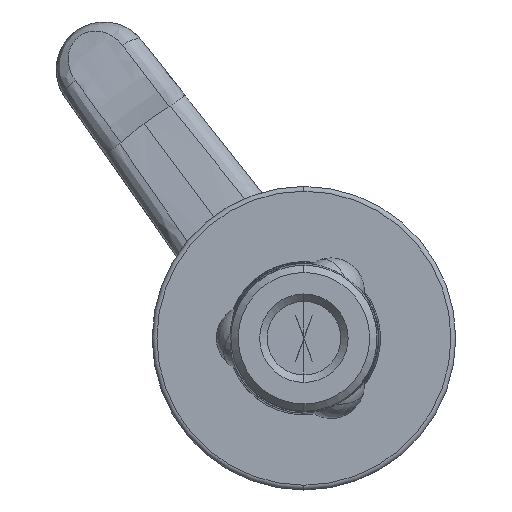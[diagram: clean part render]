
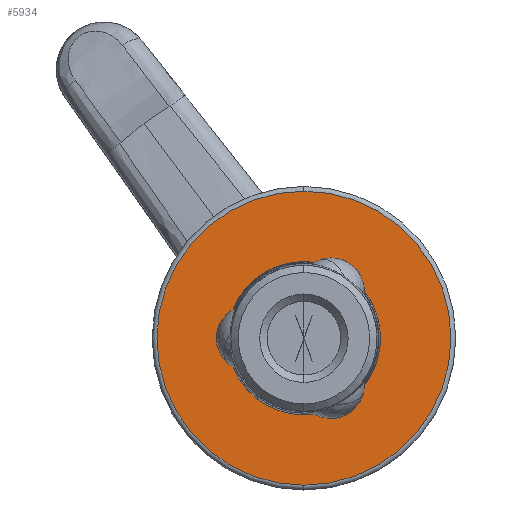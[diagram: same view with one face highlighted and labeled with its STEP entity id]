
A CAD part, front view. The second image highlights one B-rep face of the part: STEP entity #5934.
In plain terms, the highlighted planar face has unit normal (0, -1, 0).
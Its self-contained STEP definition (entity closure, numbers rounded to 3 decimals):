
#191 = ORIENTED_EDGE ( 'NONE', *, *, #7977, .F. ) ;
#240 = CIRCLE ( 'NONE', #14320, 15.375 ) ;
#620 = VERTEX_POINT ( 'NONE', #7577 ) ;
#1108 = AXIS2_PLACEMENT_3D ( 'NONE', #9900, #13183, #2991 ) ;
#1791 = PLANE ( 'NONE',  #1108 ) ;
#2040 = CARTESIAN_POINT ( 'NONE',  ( -19.15, 19.833, 6.777 ) ) ;
#2647 = DIRECTION ( 'NONE',  ( 0., 0., -1. ) ) ;
#2991 = DIRECTION ( 'NONE',  ( 0., 0., -1. ) ) ;
#3363 = DIRECTION ( 'NONE',  ( 0., -1., 0. ) ) ;
#4692 = CIRCLE ( 'NONE', #10933, 8.001 ) ;
#5377 = EDGE_CURVE ( 'NONE', #6526, #11209, #8145, .T. ) ;
#5412 = AXIS2_PLACEMENT_3D ( 'NONE', #13663, #3363, #12501 ) ;
#5423 = FACE_OUTER_BOUND ( 'NONE', #13572, .T. ) ;
#5934 = ADVANCED_FACE ( 'NONE', ( #5423, #7587 ), #1791, .T. ) ;
#6526 = VERTEX_POINT ( 'NONE', #8011 ) ;
#6646 = AXIS2_PLACEMENT_3D ( 'NONE', #7308, #10796, #2647 ) ;
#6677 = CARTESIAN_POINT ( 'NONE',  ( -19.15, 19.833, -8.598 ) ) ;
#7214 = EDGE_CURVE ( 'NONE', #11209, #6526, #240, .T. ) ;
#7308 = CARTESIAN_POINT ( 'NONE',  ( -19.15, 19.833, -8.598 ) ) ;
#7351 = ORIENTED_EDGE ( 'NONE', *, *, #5377, .T. ) ;
#7577 = CARTESIAN_POINT ( 'NONE',  ( -19.15, 19.833, -0.597 ) ) ;
#7587 = FACE_BOUND ( 'NONE', #10994, .T. ) ;
#7875 = ORIENTED_EDGE ( 'NONE', *, *, #13878, .F. ) ;
#7977 = EDGE_CURVE ( 'NONE', #9825, #620, #4692, .T. ) ;
#8011 = CARTESIAN_POINT ( 'NONE',  ( -19.15, 19.833, -23.973 ) ) ;
#8145 = CIRCLE ( 'NONE', #5412, 15.375 ) ;
#8661 = DIRECTION ( 'NONE',  ( 0., 0., -1. ) ) ;
#9825 = VERTEX_POINT ( 'NONE', #9970 ) ;
#9900 = CARTESIAN_POINT ( 'NONE',  ( -11.149, 19.833, -8.598 ) ) ;
#9970 = CARTESIAN_POINT ( 'NONE',  ( -19.15, 19.833, -16.599 ) ) ;
#10078 = DIRECTION ( 'NONE',  ( 0., -1., 0. ) ) ;
#10236 = DIRECTION ( 'NONE',  ( 0., 0., -1. ) ) ;
#10481 = ORIENTED_EDGE ( 'NONE', *, *, #7214, .T. ) ;
#10796 = DIRECTION ( 'NONE',  ( 0., -1., 0. ) ) ;
#10933 = AXIS2_PLACEMENT_3D ( 'NONE', #11005, #13091, #8661 ) ;
#10994 = EDGE_LOOP ( 'NONE', ( #191, #7875 ) ) ;
#11005 = CARTESIAN_POINT ( 'NONE',  ( -19.15, 19.833, -8.598 ) ) ;
#11209 = VERTEX_POINT ( 'NONE', #2040 ) ;
#12501 = DIRECTION ( 'NONE',  ( 0., 0., -1. ) ) ;
#12511 = CIRCLE ( 'NONE', #6646, 8.001 ) ;
#13091 = DIRECTION ( 'NONE',  ( 0., -1., 0. ) ) ;
#13183 = DIRECTION ( 'NONE',  ( 0., -1., 0. ) ) ;
#13572 = EDGE_LOOP ( 'NONE', ( #7351, #10481 ) ) ;
#13663 = CARTESIAN_POINT ( 'NONE',  ( -19.15, 19.833, -8.598 ) ) ;
#13878 = EDGE_CURVE ( 'NONE', #620, #9825, #12511, .T. ) ;
#14320 = AXIS2_PLACEMENT_3D ( 'NONE', #6677, #10078, #10236 ) ;
